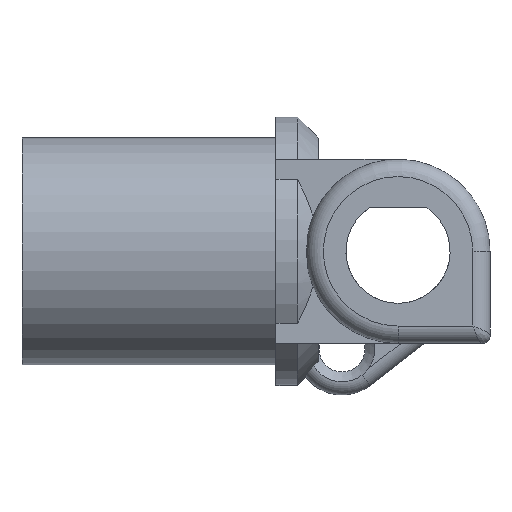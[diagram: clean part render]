
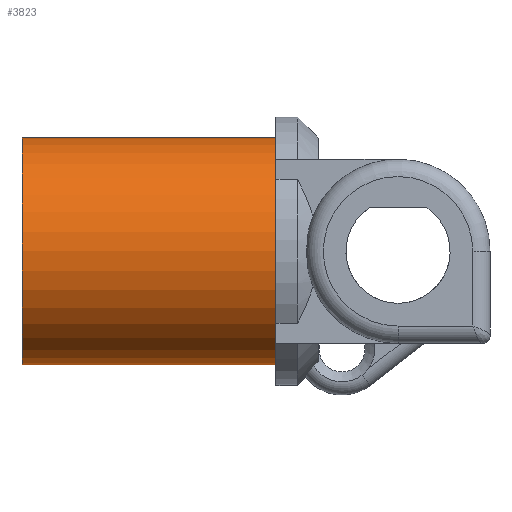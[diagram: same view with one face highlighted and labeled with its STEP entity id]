
A CAD part, front view. The second image highlights one B-rep face of the part: STEP entity #3823.
In plain terms, the highlighted cylindrical face has radius 7.9 mm (diameter 15.8 mm), a full revolution.
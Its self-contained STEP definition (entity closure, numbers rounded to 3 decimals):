
#212 = PLANE('',#213);
#213 = AXIS2_PLACEMENT_3D('',#214,#215,#216);
#214 = CARTESIAN_POINT('',(-8.5,-7.9,-6.4));
#215 = DIRECTION('',(-1.,-0.,-0.));
#216 = DIRECTION('',(0.,0.,-1.));
#1799 = EDGE_CURVE('',#1800,#1800,#1802,.T.);
#1800 = VERTEX_POINT('',#1801);
#1801 = CARTESIAN_POINT('',(-8.5,0.,-7.9));
#1802 = SURFACE_CURVE('',#1803,(#1808,#1819),.PCURVE_S1.);
#1803 = CIRCLE('',#1804,7.9);
#1804 = AXIS2_PLACEMENT_3D('',#1805,#1806,#1807);
#1805 = CARTESIAN_POINT('',(-8.5,0.,0.));
#1806 = DIRECTION('',(1.,0.,0.));
#1807 = DIRECTION('',(0.,-0.,-1.));
#1808 = PCURVE('',#212,#1809);
#1809 = DEFINITIONAL_REPRESENTATION('',(#1810),#1818);
#1810 = ( BOUNDED_CURVE() B_SPLINE_CURVE(2,(#1811,#1812,#1813,#1814,
#1815,#1816,#1817),.UNSPECIFIED.,.T.,.F.) B_SPLINE_CURVE_WITH_KNOTS((1,2
    ,2,2,2,1),(-2.094,0.,2.094,4.189,
6.283,8.378),.UNSPECIFIED.) CURVE() 
GEOMETRIC_REPRESENTATION_ITEM() RATIONAL_B_SPLINE_CURVE((1.,0.5,1.,0.5,
1.,0.5,1.)) REPRESENTATION_ITEM('') );
#1811 = CARTESIAN_POINT('',(1.5,-7.9));
#1812 = CARTESIAN_POINT('',(1.5,-21.583));
#1813 = CARTESIAN_POINT('',(-10.35,-14.742));
#1814 = CARTESIAN_POINT('',(-22.2,-7.9));
#1815 = CARTESIAN_POINT('',(-10.35,-1.058));
#1816 = CARTESIAN_POINT('',(1.5,5.783));
#1817 = CARTESIAN_POINT('',(1.5,-7.9));
#1818 = ( GEOMETRIC_REPRESENTATION_CONTEXT(2) 
PARAMETRIC_REPRESENTATION_CONTEXT() REPRESENTATION_CONTEXT('2D SPACE',''
  ) );
#1819 = PCURVE('',#1820,#1825);
#1820 = CYLINDRICAL_SURFACE('',#1821,7.9);
#1821 = AXIS2_PLACEMENT_3D('',#1822,#1823,#1824);
#1822 = CARTESIAN_POINT('',(-8.49,0.,0.));
#1823 = DIRECTION('',(-1.,-0.,0.));
#1824 = DIRECTION('',(0.,0.,-1.));
#1825 = DEFINITIONAL_REPRESENTATION('',(#1826),#1830);
#1826 = LINE('',#1827,#1828);
#1827 = CARTESIAN_POINT('',(-0.,0.01));
#1828 = VECTOR('',#1829,1.);
#1829 = DIRECTION('',(-1.,0.));
#1830 = ( GEOMETRIC_REPRESENTATION_CONTEXT(2) 
PARAMETRIC_REPRESENTATION_CONTEXT() REPRESENTATION_CONTEXT('2D SPACE',''
  ) );
#3823 = ADVANCED_FACE('',(#3824),#1820,.T.);
#3824 = FACE_BOUND('',#3825,.F.);
#3825 = EDGE_LOOP('',(#3826,#3849,#3880,#3881));
#3826 = ORIENTED_EDGE('',*,*,#3827,.T.);
#3827 = EDGE_CURVE('',#1800,#3828,#3830,.T.);
#3828 = VERTEX_POINT('',#3829);
#3829 = CARTESIAN_POINT('',(-26.17,0.,-7.9));
#3830 = SEAM_CURVE('',#3831,(#3835,#3842),.PCURVE_S1.);
#3831 = LINE('',#3832,#3833);
#3832 = CARTESIAN_POINT('',(-8.49,0.,-7.9));
#3833 = VECTOR('',#3834,1.);
#3834 = DIRECTION('',(-1.,-0.,0.));
#3835 = PCURVE('',#1820,#3836);
#3836 = DEFINITIONAL_REPRESENTATION('',(#3837),#3841);
#3837 = LINE('',#3838,#3839);
#3838 = CARTESIAN_POINT('',(-6.283,-0.));
#3839 = VECTOR('',#3840,1.);
#3840 = DIRECTION('',(-0.,1.));
#3841 = ( GEOMETRIC_REPRESENTATION_CONTEXT(2) 
PARAMETRIC_REPRESENTATION_CONTEXT() REPRESENTATION_CONTEXT('2D SPACE',''
  ) );
#3842 = PCURVE('',#1820,#3843);
#3843 = DEFINITIONAL_REPRESENTATION('',(#3844),#3848);
#3844 = LINE('',#3845,#3846);
#3845 = CARTESIAN_POINT('',(-0.,-0.));
#3846 = VECTOR('',#3847,1.);
#3847 = DIRECTION('',(-0.,1.));
#3848 = ( GEOMETRIC_REPRESENTATION_CONTEXT(2) 
PARAMETRIC_REPRESENTATION_CONTEXT() REPRESENTATION_CONTEXT('2D SPACE',''
  ) );
#3849 = ORIENTED_EDGE('',*,*,#3850,.F.);
#3850 = EDGE_CURVE('',#3828,#3828,#3851,.T.);
#3851 = SURFACE_CURVE('',#3852,(#3857,#3864),.PCURVE_S1.);
#3852 = CIRCLE('',#3853,7.9);
#3853 = AXIS2_PLACEMENT_3D('',#3854,#3855,#3856);
#3854 = CARTESIAN_POINT('',(-26.17,0.,0.));
#3855 = DIRECTION('',(1.,0.,0.));
#3856 = DIRECTION('',(0.,0.,-1.));
#3857 = PCURVE('',#1820,#3858);
#3858 = DEFINITIONAL_REPRESENTATION('',(#3859),#3863);
#3859 = LINE('',#3860,#3861);
#3860 = CARTESIAN_POINT('',(-0.,17.68));
#3861 = VECTOR('',#3862,1.);
#3862 = DIRECTION('',(-1.,0.));
#3863 = ( GEOMETRIC_REPRESENTATION_CONTEXT(2) 
PARAMETRIC_REPRESENTATION_CONTEXT() REPRESENTATION_CONTEXT('2D SPACE',''
  ) );
#3864 = PCURVE('',#3865,#3870);
#3865 = PLANE('',#3866);
#3866 = AXIS2_PLACEMENT_3D('',#3867,#3868,#3869);
#3867 = CARTESIAN_POINT('',(-26.17,0.,0.));
#3868 = DIRECTION('',(-1.,-0.,0.));
#3869 = DIRECTION('',(0.,0.,1.));
#3870 = DEFINITIONAL_REPRESENTATION('',(#3871),#3879);
#3871 = ( BOUNDED_CURVE() B_SPLINE_CURVE(2,(#3872,#3873,#3874,#3875,
#3876,#3877,#3878),.UNSPECIFIED.,.T.,.F.) B_SPLINE_CURVE_WITH_KNOTS((1,2
    ,2,2,2,1),(-2.094,0.,2.094,4.189,
6.283,8.378),.UNSPECIFIED.) CURVE() 
GEOMETRIC_REPRESENTATION_ITEM() RATIONAL_B_SPLINE_CURVE((1.,0.5,1.,0.5,
1.,0.5,1.)) REPRESENTATION_ITEM('') );
#3872 = CARTESIAN_POINT('',(-7.9,0.));
#3873 = CARTESIAN_POINT('',(-7.9,13.683));
#3874 = CARTESIAN_POINT('',(3.95,6.842));
#3875 = CARTESIAN_POINT('',(15.8,0.));
#3876 = CARTESIAN_POINT('',(3.95,-6.842));
#3877 = CARTESIAN_POINT('',(-7.9,-13.683));
#3878 = CARTESIAN_POINT('',(-7.9,0.));
#3879 = ( GEOMETRIC_REPRESENTATION_CONTEXT(2) 
PARAMETRIC_REPRESENTATION_CONTEXT() REPRESENTATION_CONTEXT('2D SPACE',''
  ) );
#3880 = ORIENTED_EDGE('',*,*,#3827,.F.);
#3881 = ORIENTED_EDGE('',*,*,#1799,.T.);
